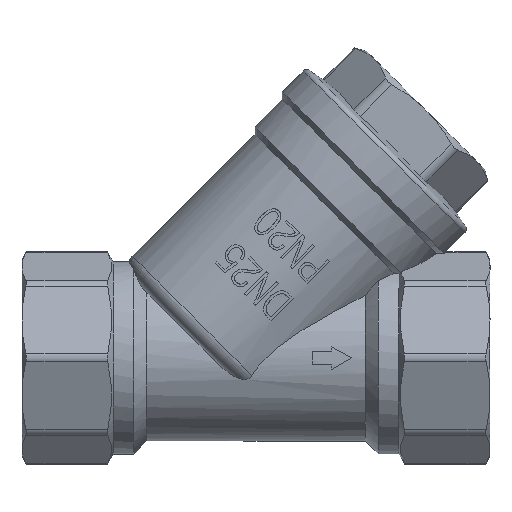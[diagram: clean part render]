
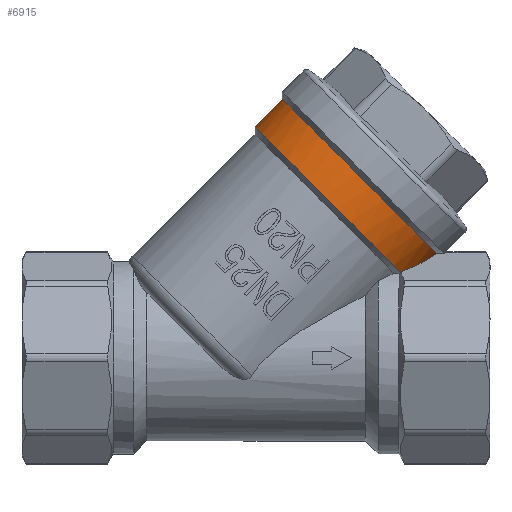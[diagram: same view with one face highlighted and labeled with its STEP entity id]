
A CAD part, top view. The second image highlights one B-rep face of the part: STEP entity #6915.
In plain terms, the highlighted cylindrical face has radius 21 mm (diameter 42 mm), a partial arc.
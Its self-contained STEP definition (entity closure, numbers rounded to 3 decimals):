
#215=ELLIPSE('',#7444,32.145,21.);
#216=ELLIPSE('',#7446,32.145,21.);
#521=B_SPLINE_CURVE_WITH_KNOTS('',3,(#17484,#17485,#17486,#17487),
 .UNSPECIFIED.,.F.,.F.,(4,4),(1.29,1.306),
 .UNSPECIFIED.);
#522=B_SPLINE_CURVE_WITH_KNOTS('',3,(#17489,#17490,#17491,#17492),
 .UNSPECIFIED.,.F.,.F.,(4,4),(1.335,1.352),
 .UNSPECIFIED.);
#1108=FACE_OUTER_BOUND('',#1515,.T.);
#1515=EDGE_LOOP('',(#6038,#6039,#6040,#6041,#6042,#6043));
#2522=CIRCLE('',#7442,21.);
#2523=CIRCLE('',#7445,21.);
#3157=VERTEX_POINT('',#17471);
#3158=VERTEX_POINT('',#17476);
#3159=VERTEX_POINT('',#17483);
#3160=VERTEX_POINT('',#17488);
#3161=VERTEX_POINT('',#17493);
#3162=VERTEX_POINT('',#17495);
#4163=EDGE_CURVE('',#3158,#3157,#2522,.T.);
#4165=EDGE_CURVE('',#3158,#3159,#521,.T.);
#4166=EDGE_CURVE('',#3160,#3157,#522,.T.);
#4167=EDGE_CURVE('',#3161,#3160,#215,.T.);
#4168=EDGE_CURVE('',#3162,#3161,#2523,.T.);
#4169=EDGE_CURVE('',#3159,#3162,#216,.T.);
#6038=ORIENTED_EDGE('',*,*,#4165,.F.);
#6039=ORIENTED_EDGE('',*,*,#4163,.T.);
#6040=ORIENTED_EDGE('',*,*,#4166,.F.);
#6041=ORIENTED_EDGE('',*,*,#4167,.F.);
#6042=ORIENTED_EDGE('',*,*,#4168,.F.);
#6043=ORIENTED_EDGE('',*,*,#4169,.F.);
#6589=CYLINDRICAL_SURFACE('',#7443,21.);
#6915=ADVANCED_FACE('',(#1108),#6589,.T.);
#7442=AXIS2_PLACEMENT_3D('',#17477,#8761,#8762);
#7443=AXIS2_PLACEMENT_3D('',#17482,#8763,#8764);
#7444=AXIS2_PLACEMENT_3D('',#17494,#8765,#8766);
#7445=AXIS2_PLACEMENT_3D('',#17496,#8767,#8768);
#7446=AXIS2_PLACEMENT_3D('',#17497,#8769,#8770);
#8761=DIRECTION('center_axis',(0.707,0.707,0.));
#8762=DIRECTION('ref_axis',(0.707,-0.707,0.));
#8763=DIRECTION('center_axis',(0.707,0.707,0.));
#8764=DIRECTION('ref_axis',(-0.707,0.707,0.));
#8765=DIRECTION('center_axis',(0.,-0.924,-0.383));
#8766=DIRECTION('ref_axis',(-0.934,-0.137,0.33));
#8767=DIRECTION('center_axis',(0.707,0.707,0.));
#8768=DIRECTION('ref_axis',(0.707,-0.707,0.));
#8769=DIRECTION('center_axis',(0.,-0.924,0.383));
#8770=DIRECTION('ref_axis',(-0.934,-0.137,-0.33));
#17471=CARTESIAN_POINT('',(27.805,16.418,9.618));
#17476=CARTESIAN_POINT('',(27.805,16.418,-9.618));
#17477=CARTESIAN_POINT('Origin',(14.605,29.618,0.));
#17482=CARTESIAN_POINT('Origin',(17.256,32.27,0.));
#17483=CARTESIAN_POINT('',(27.892,16.554,-9.685));
#17484=CARTESIAN_POINT('Ctrl Pts',(27.805,16.418,-9.618));
#17485=CARTESIAN_POINT('Ctrl Pts',(27.834,16.463,-9.641));
#17486=CARTESIAN_POINT('Ctrl Pts',(27.863,16.508,-9.663));
#17487=CARTESIAN_POINT('Ctrl Pts',(27.892,16.554,-9.685));
#17488=CARTESIAN_POINT('',(27.892,16.554,9.685));
#17489=CARTESIAN_POINT('Ctrl Pts',(27.892,16.554,9.685));
#17490=CARTESIAN_POINT('Ctrl Pts',(27.863,16.508,9.663));
#17491=CARTESIAN_POINT('Ctrl Pts',(27.834,16.463,9.641));
#17492=CARTESIAN_POINT('Ctrl Pts',(27.805,16.418,9.618));
#17493=CARTESIAN_POINT('',(34.736,20.094,1.138));
#17494=CARTESIAN_POINT('Origin',(5.552,20.565,0.));
#17495=CARTESIAN_POINT('',(34.736,20.094,-1.138));
#17496=CARTESIAN_POINT('Origin',(19.908,34.921,0.));
#17497=CARTESIAN_POINT('Origin',(5.552,20.565,0.));
